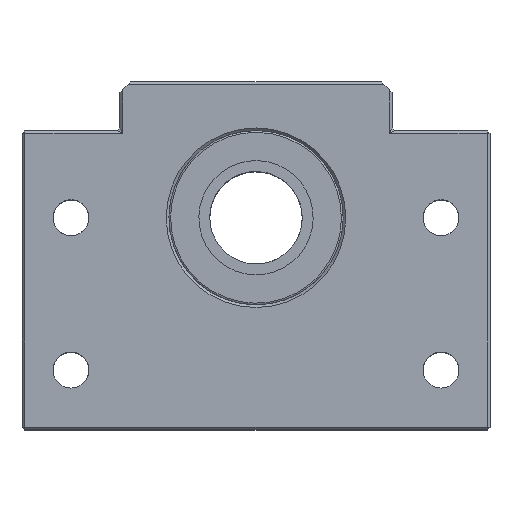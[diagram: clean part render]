
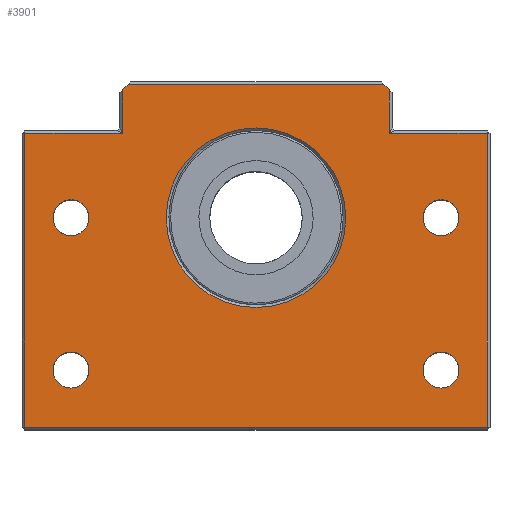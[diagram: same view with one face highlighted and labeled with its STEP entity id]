
A CAD part, top view. The second image highlights one B-rep face of the part: STEP entity #3901.
In plain terms, the highlighted planar face has unit normal (0, 0, 1) as drawn and (0, 0, -1) by its records, which use the part's own axes.
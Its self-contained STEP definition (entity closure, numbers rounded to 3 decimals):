
#191=FACE_BOUND('',#1175,.T.);
#192=FACE_BOUND('',#1176,.T.);
#193=FACE_BOUND('',#1177,.T.);
#194=FACE_BOUND('',#1178,.T.);
#195=FACE_BOUND('',#1179,.T.);
#276=PLANE('',#4293);
#383=LINE('',#6155,#639);
#388=LINE('',#6165,#644);
#389=LINE('',#6167,#645);
#390=LINE('',#6169,#646);
#391=LINE('',#6171,#647);
#392=LINE('',#6173,#648);
#393=LINE('',#6175,#649);
#394=LINE('',#6177,#650);
#395=LINE('',#6179,#651);
#396=LINE('',#6180,#652);
#639=VECTOR('',#4839,10.);
#644=VECTOR('',#4846,10.);
#645=VECTOR('',#4847,10.);
#646=VECTOR('',#4848,10.);
#647=VECTOR('',#4849,10.);
#648=VECTOR('',#4850,10.);
#649=VECTOR('',#4851,10.);
#650=VECTOR('',#4852,10.);
#651=VECTOR('',#4853,10.);
#652=VECTOR('',#4854,10.);
#947=FACE_OUTER_BOUND('',#1174,.T.);
#1174=EDGE_LOOP('',(#2751,#2752,#2753,#2754,#2755,#2756,#2757,#2758,#2759,
#2760));
#1175=EDGE_LOOP('',(#2761));
#1176=EDGE_LOOP('',(#2762));
#1177=EDGE_LOOP('',(#2763));
#1178=EDGE_LOOP('',(#2764));
#1179=EDGE_LOOP('',(#2765));
#1484=CIRCLE('',#4294,3.3);
#1485=CIRCLE('',#4295,3.3);
#1486=CIRCLE('',#4296,3.3);
#1487=CIRCLE('',#4297,3.3);
#1488=CIRCLE('',#4298,16.5);
#1768=VERTEX_POINT('',#6152);
#1769=VERTEX_POINT('',#6154);
#1773=VERTEX_POINT('',#6164);
#1774=VERTEX_POINT('',#6166);
#1775=VERTEX_POINT('',#6168);
#1776=VERTEX_POINT('',#6170);
#1777=VERTEX_POINT('',#6172);
#1778=VERTEX_POINT('',#6174);
#1779=VERTEX_POINT('',#6176);
#1780=VERTEX_POINT('',#6178);
#1781=VERTEX_POINT('',#6181);
#1782=VERTEX_POINT('',#6183);
#1783=VERTEX_POINT('',#6185);
#1784=VERTEX_POINT('',#6187);
#1785=VERTEX_POINT('',#6189);
#2173=EDGE_CURVE('',#1768,#1769,#383,.T.);
#2178=EDGE_CURVE('',#1773,#1768,#388,.T.);
#2179=EDGE_CURVE('',#1774,#1773,#389,.T.);
#2180=EDGE_CURVE('',#1775,#1774,#390,.T.);
#2181=EDGE_CURVE('',#1776,#1775,#391,.T.);
#2182=EDGE_CURVE('',#1777,#1776,#392,.T.);
#2183=EDGE_CURVE('',#1778,#1777,#393,.T.);
#2184=EDGE_CURVE('',#1779,#1778,#394,.T.);
#2185=EDGE_CURVE('',#1780,#1779,#395,.T.);
#2186=EDGE_CURVE('',#1769,#1780,#396,.T.);
#2187=EDGE_CURVE('',#1781,#1781,#1484,.T.);
#2188=EDGE_CURVE('',#1782,#1782,#1485,.T.);
#2189=EDGE_CURVE('',#1783,#1783,#1486,.T.);
#2190=EDGE_CURVE('',#1784,#1784,#1487,.T.);
#2191=EDGE_CURVE('',#1785,#1785,#1488,.T.);
#2751=ORIENTED_EDGE('',*,*,#2173,.F.);
#2752=ORIENTED_EDGE('',*,*,#2178,.F.);
#2753=ORIENTED_EDGE('',*,*,#2179,.F.);
#2754=ORIENTED_EDGE('',*,*,#2180,.F.);
#2755=ORIENTED_EDGE('',*,*,#2181,.F.);
#2756=ORIENTED_EDGE('',*,*,#2182,.F.);
#2757=ORIENTED_EDGE('',*,*,#2183,.F.);
#2758=ORIENTED_EDGE('',*,*,#2184,.F.);
#2759=ORIENTED_EDGE('',*,*,#2185,.F.);
#2760=ORIENTED_EDGE('',*,*,#2186,.F.);
#2761=ORIENTED_EDGE('',*,*,#2187,.T.);
#2762=ORIENTED_EDGE('',*,*,#2188,.T.);
#2763=ORIENTED_EDGE('',*,*,#2189,.T.);
#2764=ORIENTED_EDGE('',*,*,#2190,.T.);
#2765=ORIENTED_EDGE('',*,*,#2191,.F.);
#3901=ADVANCED_FACE('',(#947,#191,#192,#193,#194,#195),#276,.T.);
#4293=AXIS2_PLACEMENT_3D('',#6163,#4844,#4845);
#4294=AXIS2_PLACEMENT_3D('',#6182,#4855,#4856);
#4295=AXIS2_PLACEMENT_3D('',#6184,#4857,#4858);
#4296=AXIS2_PLACEMENT_3D('',#6186,#4859,#4860);
#4297=AXIS2_PLACEMENT_3D('',#6188,#4861,#4862);
#4298=AXIS2_PLACEMENT_3D('',#6190,#4863,#4864);
#4839=DIRECTION('',(-0.707,-0.707,0.));
#4844=DIRECTION('center_axis',(0.,0.,-1.));
#4845=DIRECTION('ref_axis',(-1.,0.,0.));
#4846=DIRECTION('',(-1.,0.,0.));
#4847=DIRECTION('',(-0.707,0.707,0.));
#4848=DIRECTION('',(0.,1.,0.));
#4849=DIRECTION('',(-1.,0.,0.));
#4850=DIRECTION('',(0.,1.,0.));
#4851=DIRECTION('',(1.,0.,0.));
#4852=DIRECTION('',(0.,-1.,0.));
#4853=DIRECTION('',(-1.,0.,0.));
#4854=DIRECTION('',(0.,-1.,0.));
#4855=DIRECTION('center_axis',(0.,0.,1.));
#4856=DIRECTION('ref_axis',(1.,0.,0.));
#4857=DIRECTION('center_axis',(0.,0.,1.));
#4858=DIRECTION('ref_axis',(1.,0.,0.));
#4859=DIRECTION('center_axis',(0.,0.,1.));
#4860=DIRECTION('ref_axis',(1.,0.,0.));
#4861=DIRECTION('center_axis',(0.,0.,1.));
#4862=DIRECTION('ref_axis',(1.,0.,0.));
#4863=DIRECTION('center_axis',(0.,0.,-1.));
#4864=DIRECTION('ref_axis',(-1.,0.,0.));
#6152=CARTESIAN_POINT('',(-23.5,24.5,-17.5));
#6154=CARTESIAN_POINT('',(-24.5,23.5,-17.5));
#6155=CARTESIAN_POINT('',(-24.,24.,-17.5));
#6163=CARTESIAN_POINT('Origin',(0.,0.,-17.5));
#6164=CARTESIAN_POINT('',(23.5,24.5,-17.5));
#6165=CARTESIAN_POINT('',(12.5,24.5,-17.5));
#6166=CARTESIAN_POINT('',(24.5,23.5,-17.5));
#6167=CARTESIAN_POINT('',(24.,24.,-17.5));
#6168=CARTESIAN_POINT('',(24.5,15.5,-17.5));
#6169=CARTESIAN_POINT('',(24.5,8.,-17.5));
#6170=CARTESIAN_POINT('',(42.5,15.5,-17.5));
#6171=CARTESIAN_POINT('',(21.5,15.5,-17.5));
#6172=CARTESIAN_POINT('',(42.5,-38.5,-17.5));
#6173=CARTESIAN_POINT('',(42.5,-19.5,-17.5));
#6174=CARTESIAN_POINT('',(-42.5,-38.5,-17.5));
#6175=CARTESIAN_POINT('',(-21.5,-38.5,-17.5));
#6176=CARTESIAN_POINT('',(-42.5,15.5,-17.5));
#6177=CARTESIAN_POINT('',(-42.5,8.,-17.5));
#6178=CARTESIAN_POINT('',(-24.5,15.5,-17.5));
#6179=CARTESIAN_POINT('',(-12.5,15.5,-17.5));
#6180=CARTESIAN_POINT('',(-24.5,12.5,-17.5));
#6181=CARTESIAN_POINT('',(30.7,-28.,-17.5));
#6182=CARTESIAN_POINT('Origin',(34.,-28.,-17.5));
#6183=CARTESIAN_POINT('',(-37.3,-28.,-17.5));
#6184=CARTESIAN_POINT('Origin',(-34.,-28.,-17.5));
#6185=CARTESIAN_POINT('',(-37.3,0.,-17.5));
#6186=CARTESIAN_POINT('Origin',(-34.,0.,-17.5));
#6187=CARTESIAN_POINT('',(30.7,0.,-17.5));
#6188=CARTESIAN_POINT('Origin',(34.,0.,-17.5));
#6189=CARTESIAN_POINT('',(16.5,0.,-17.5));
#6190=CARTESIAN_POINT('Origin',(0.,0.,-17.5));
